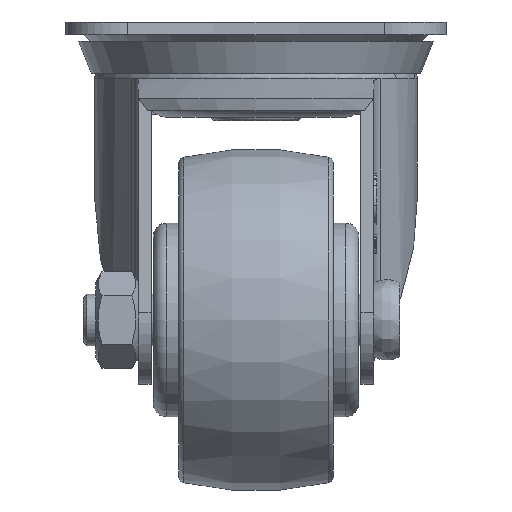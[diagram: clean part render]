
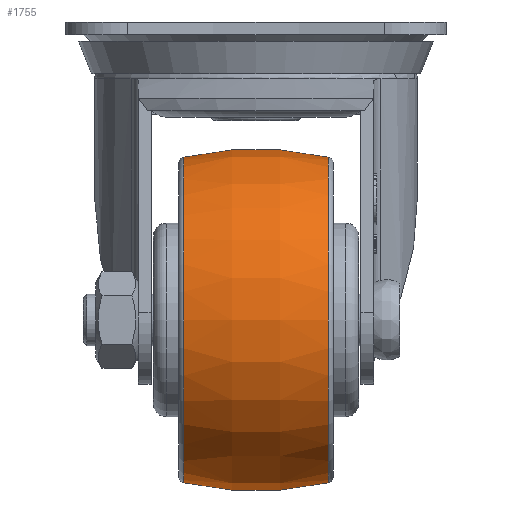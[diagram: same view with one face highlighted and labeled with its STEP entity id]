
A CAD part, left-side view. The second image highlights one B-rep face of the part: STEP entity #1755.
In plain terms, the highlighted free-form (B-spline) face has degree [3, 3] with [4, 7] control points.
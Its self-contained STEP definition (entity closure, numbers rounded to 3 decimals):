
#1081=(
BOUNDED_SURFACE()
B_SPLINE_SURFACE(3,3,((#14427,#14428,#14429,#14430,#14431,#14432,#14433),
(#14434,#14435,#14436,#14437,#14438,#14439,#14440),(#14441,#14442,#14443,
#14444,#14445,#14446,#14447),(#14448,#14449,#14450,#14451,#14452,#14453,
#14454)),.UNSPECIFIED.,.F.,.T.,.F.)
B_SPLINE_SURFACE_WITH_KNOTS((4,4),(1,3,3,3,1),(0.,1.),(-0.5,0.,0.5,1.,1.5),
 .UNSPECIFIED.)
GEOMETRIC_REPRESENTATION_ITEM()
RATIONAL_B_SPLINE_SURFACE(((1.,0.333,0.333,1.,0.333,
0.333,1.),(0.983,0.328,0.328,
0.983,0.328,0.328,0.983),
(0.983,0.328,0.328,0.983,
0.328,0.328,0.983),(1.,0.333,
0.333,1.,0.333,0.333,1.)))
REPRESENTATION_ITEM('')
SURFACE()
);
#1755=ADVANCED_FACE('',(#2465,#2466),#1081,.T.);
#2465=FACE_BOUND('',#2740,.T.);
#2466=FACE_BOUND('',#2741,.T.);
#2740=EDGE_LOOP('',(#3458));
#2741=EDGE_LOOP('',(#3459));
#3458=ORIENTED_EDGE('',*,*,#6563,.T.);
#3459=ORIENTED_EDGE('',*,*,#6564,.T.);
#5764=VERTEX_POINT('',#14424);
#5765=VERTEX_POINT('',#14426);
#6563=EDGE_CURVE('',#5764,#5764,#7560,.T.);
#6564=EDGE_CURVE('',#5765,#5765,#7561,.T.);
#7560=CIRCLE('',#7913,25.224);
#7561=CIRCLE('',#7914,25.224);
#7913=AXIS2_PLACEMENT_3D('',#14423,#8741,#8742);
#7914=AXIS2_PLACEMENT_3D('',#14425,#8743,#8744);
#8741=DIRECTION('',(0.,-1.,0.));
#8742=DIRECTION('',(0.,0.,-1.));
#8743=DIRECTION('',(0.,1.,0.));
#8744=DIRECTION('',(0.,0.,1.));
#14423=CARTESIAN_POINT('',(-26.,11.224,-52.84));
#14424=CARTESIAN_POINT('',(-26.,11.224,-78.064));
#14425=CARTESIAN_POINT('',(-26.,-11.224,-52.84));
#14426=CARTESIAN_POINT('',(-26.,-11.224,-27.616));
#14427=CARTESIAN_POINT('',(-26.,-11.224,-78.064));
#14428=CARTESIAN_POINT('',(24.448,-11.224,-78.064));
#14429=CARTESIAN_POINT('',(24.448,-11.224,-27.616));
#14430=CARTESIAN_POINT('',(-26.,-11.224,-27.616));
#14431=CARTESIAN_POINT('',(-76.448,-11.224,-27.616));
#14432=CARTESIAN_POINT('',(-76.448,-11.224,-78.064));
#14433=CARTESIAN_POINT('',(-26.,-11.224,-78.064));
#14434=CARTESIAN_POINT('',(-26.,-3.806,-79.773));
#14435=CARTESIAN_POINT('',(27.866,-3.806,-79.773));
#14436=CARTESIAN_POINT('',(27.866,-3.806,-25.907));
#14437=CARTESIAN_POINT('',(-26.,-3.806,-25.907));
#14438=CARTESIAN_POINT('',(-79.866,-3.806,-25.907));
#14439=CARTESIAN_POINT('',(-79.866,-3.806,-79.773));
#14440=CARTESIAN_POINT('',(-26.,-3.806,-79.773));
#14441=CARTESIAN_POINT('',(-26.,3.806,-79.773));
#14442=CARTESIAN_POINT('',(27.866,3.806,-79.773));
#14443=CARTESIAN_POINT('',(27.866,3.806,-25.907));
#14444=CARTESIAN_POINT('',(-26.,3.806,-25.907));
#14445=CARTESIAN_POINT('',(-79.866,3.806,-25.907));
#14446=CARTESIAN_POINT('',(-79.866,3.806,-79.773));
#14447=CARTESIAN_POINT('',(-26.,3.806,-79.773));
#14448=CARTESIAN_POINT('',(-26.,11.224,-78.064));
#14449=CARTESIAN_POINT('',(24.448,11.224,-78.064));
#14450=CARTESIAN_POINT('',(24.448,11.224,-27.616));
#14451=CARTESIAN_POINT('',(-26.,11.224,-27.616));
#14452=CARTESIAN_POINT('',(-76.448,11.224,-27.616));
#14453=CARTESIAN_POINT('',(-76.448,11.224,-78.064));
#14454=CARTESIAN_POINT('',(-26.,11.224,-78.064));
